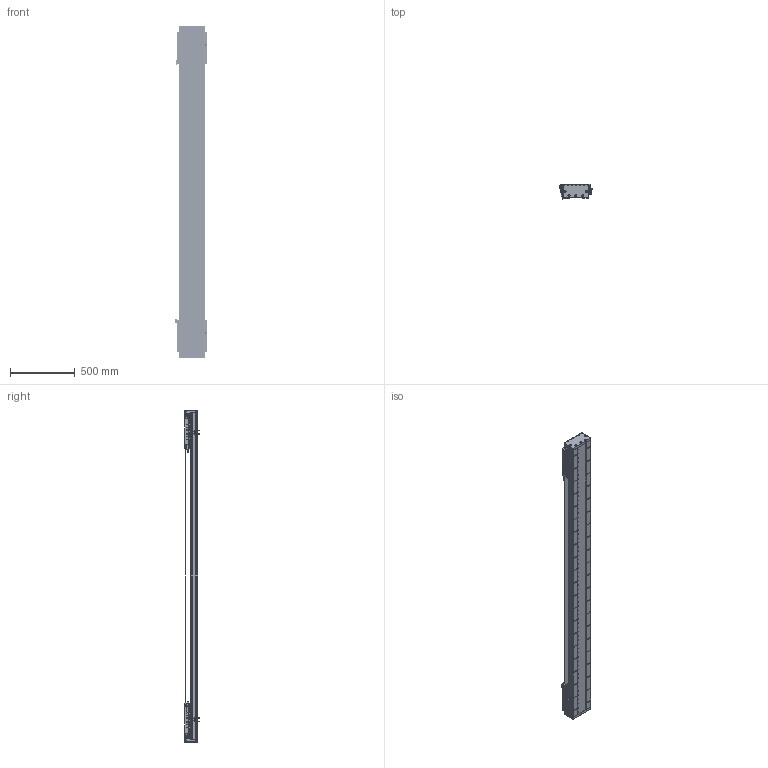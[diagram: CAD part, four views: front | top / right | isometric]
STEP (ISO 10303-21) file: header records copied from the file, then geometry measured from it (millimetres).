
FILE_DESCRIPTION (( 'STEP AP203' ), '1' );
FILE_NAME ('DA-C195-2-C3-T1940-C010-0.2 眻盄萇儂.STEP', '2025-08-15T00:45:38', ( '' ), ( '' ), 'SwSTEP 2.0', 'SolidWorks 2019', '' );
FILE_SCHEMA (( 'CONFIG_CONTROL_DESIGN' ));
Length unit declared in the file: millimetre
Products named in the file (19): PM-T45ㄗ侂狟ㄘ; LMT黍杅芛; DA-C195-GD-DB-H-00 傷啣; DA165-GYP-00 光电感应片(默认); DA195詩湍菜輸; DA95-HXJ-00 遣喳砎蝶; DA195詩湍嶺輸; IU-CU195-L-00 菁釱(L2520); DA195詩湍裔啣; CU195-C3賑輸-俋楷; IU-CU195-L 菁釱絳寢; DKW-KGZ-ZJ-00 中间光电开关支架; MS200 棠掑喜S315-T240; PM-Y65嫖萇羲壽郪璃; DA195詩湍郪璃; 葩璃 DA95-GT-T-00; DA-C195-2-C3-T1940-C010-0.2 眻盄萇儂; DKW168-HXJ-ZJ-00 笢潔滅袉砎蝶; DKW-GYP-ZJ-00 笢潔嫖萇覜茼え
Assembly tree (37 placements, depth 3):
  DA-C195-2-C3-T1940-C010-0.2 眻盄萇儂
    DA195詩湍郪璃
      DA195詩湍菜輸  x2
      DA195詩湍裔啣
      DA195詩湍嶺輸  x2
      DA95-HXJ-00 遣喳砎蝶  x8
      DA-C195-GD-DB-H-00 傷啣  x2
    IU-CU195-L 菁釱絳寢
      IU-CU195-L-00 菁釱(L2520)
      葩璃 DA95-GT-T-00  x4
    LMT黍杅芛  x2
    MS200 棠掑喜S315-T240
    PM-T45ㄗ侂狟ㄘ  x4
    DA165-GYP-00 光电感应片(默认)  x2
    PM-Y65嫖萇羲壽郪璃
    DKW168-HXJ-ZJ-00 笢潔滅袉砎蝶
    DKW-GYP-ZJ-00 笢潔嫖萇覜茼え
    DKW-KGZ-ZJ-00 中间光电开关支架
    CU195-C3賑輸-俋楷  x2
Bounding box: 258.2 x 115.45 x 2560 mm (x, y, z)
Volume: 16722272.8 mm3; surface area: 4783329 mm2
Topology: 154 solids, 218 shells, 6859 faces, 18303 edges, 11397 vertices
Faces by surface type: cylinder 3258, plane 2549, cone 884, torus 88, sphere 72, bspline 8
Entity records: 148021 total; most frequent: CARTESIAN_POINT 39265, ORIENTED_EDGE 22622, DIRECTION 21720, EDGE_CURVE 11311, AXIS2_PLACEMENT_3D 7993, VERTEX_POINT 7322, VECTOR 5734, LINE 5734
